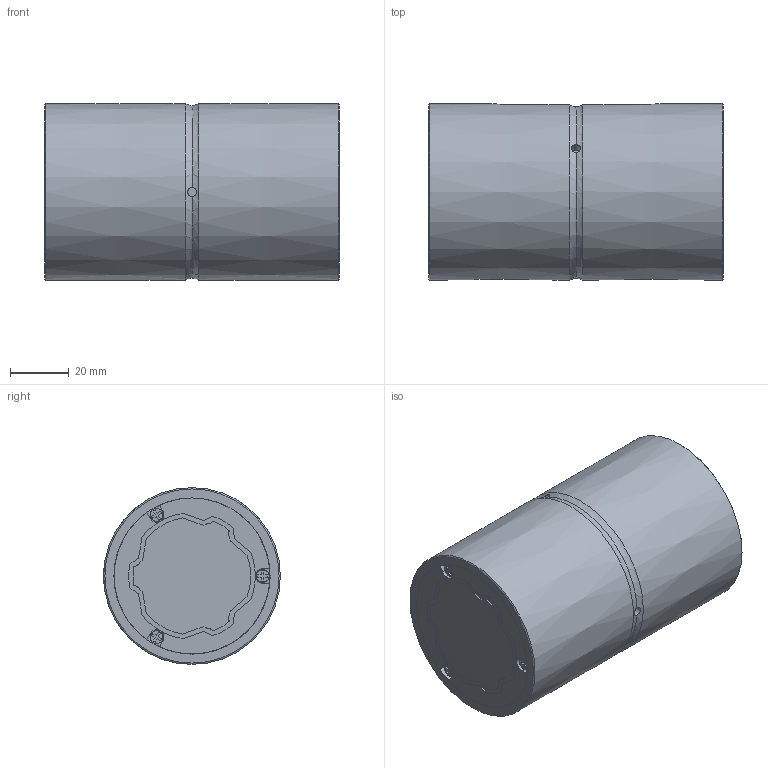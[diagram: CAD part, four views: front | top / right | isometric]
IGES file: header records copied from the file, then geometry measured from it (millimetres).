
Start section: Data from Parasolid IGES Translator 26.0.171, Copyright(c) 2006 Siemens PLM Software. All Rights Reserved.
Global section: file name: SLS40L1100(00).igs; native system: By Siemens PLM Incorporated; preprocessor: XPlus GENERIC/IGES 26.0.171; author: Noname; organization: Noname; date: 20240523.114654; units: millimetre
Bounding box: 100 x 60 x 60 mm (x, y, z)
Surface area: 51377.3 mm2 (no closed solid volume)
Topology: 0 solids, 0 shells, 279 faces, 1534 edges, 1502 vertices
Faces by surface type: extrusion 164, revolution 115
